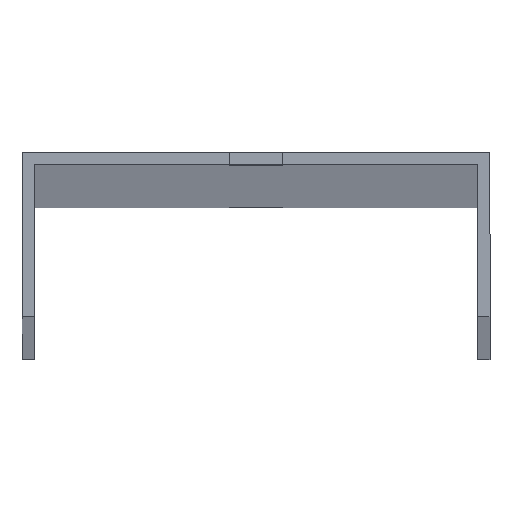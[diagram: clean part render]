
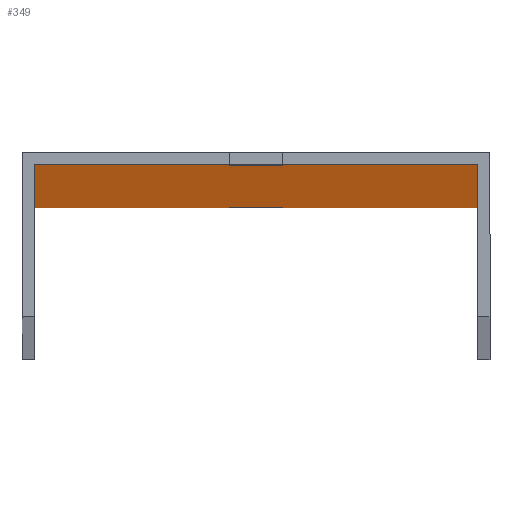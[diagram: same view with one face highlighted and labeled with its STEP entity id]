
A CAD part, top view. The second image highlights one B-rep face of the part: STEP entity #349.
In plain terms, the highlighted planar face has unit normal (0, -1, 0).
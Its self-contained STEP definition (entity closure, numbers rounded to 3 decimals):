
#1 = DIRECTION ( 'NONE',  ( -1., 0., 0. ) ) ;
#4 = EDGE_LOOP ( 'NONE', ( #143, #237, #365, #61 ) ) ;
#7 = EDGE_LOOP ( 'NONE', ( #327, #92, #99, #510 ) ) ;
#8 = VERTEX_POINT ( 'NONE', #461 ) ;
#12 = CARTESIAN_POINT ( 'NONE',  ( -28.5, -1.5, 1479. ) ) ;
#28 = VECTOR ( 'NONE', #229, 1000. ) ;
#38 = VERTEX_POINT ( 'NONE', #313 ) ;
#40 = EDGE_CURVE ( 'NONE', #508, #557, #586, .T. ) ;
#41 = CARTESIAN_POINT ( 'NONE',  ( 3.25, -1.5, 1500. ) ) ;
#42 = VERTEX_POINT ( 'NONE', #497 ) ;
#48 = FACE_OUTER_BOUND ( 'NONE', #4, .T. ) ;
#50 = VECTOR ( 'NONE', #145, 1000. ) ;
#52 = ORIENTED_EDGE ( 'NONE', *, *, #303, .T. ) ;
#61 = ORIENTED_EDGE ( 'NONE', *, *, #144, .T. ) ;
#72 = CARTESIAN_POINT ( 'NONE',  ( 27., -1.5, -1500. ) ) ;
#78 = ORIENTED_EDGE ( 'NONE', *, *, #326, .T. ) ;
#81 = EDGE_CURVE ( 'NONE', #42, #8, #551, .T. ) ;
#82 = LINE ( 'NONE', #434, #588 ) ;
#89 = LINE ( 'NONE', #454, #300 ) ;
#91 = CARTESIAN_POINT ( 'NONE',  ( -28.5, -1.5, 1500. ) ) ;
#92 = ORIENTED_EDGE ( 'NONE', *, *, #545, .F. ) ;
#99 = ORIENTED_EDGE ( 'NONE', *, *, #358, .F. ) ;
#103 = ORIENTED_EDGE ( 'NONE', *, *, #309, .T. ) ;
#118 = DIRECTION ( 'NONE',  ( 0., 0., -1. ) ) ;
#119 = VECTOR ( 'NONE', #379, 1000. ) ;
#127 = LINE ( 'NONE', #252, #471 ) ;
#132 = DIRECTION ( 'NONE',  ( 0., 0., -1. ) ) ;
#137 = LINE ( 'NONE', #266, #28 ) ;
#143 = ORIENTED_EDGE ( 'NONE', *, *, #244, .F. ) ;
#144 = EDGE_CURVE ( 'NONE', #239, #267, #166, .T. ) ;
#145 = DIRECTION ( 'NONE',  ( 0., 0., -1. ) ) ;
#166 = LINE ( 'NONE', #211, #419 ) ;
#174 = FACE_BOUND ( 'NONE', #7, .T. ) ;
#186 = DIRECTION ( 'NONE',  ( 1., 0., 0. ) ) ;
#187 = CARTESIAN_POINT ( 'NONE',  ( -3.25, -1.5, 1500. ) ) ;
#194 = VECTOR ( 'NONE', #216, 1000. ) ;
#204 = CARTESIAN_POINT ( 'NONE',  ( 3.25, -1.5, -1479. ) ) ;
#211 = CARTESIAN_POINT ( 'NONE',  ( -27., -1.5, 1500. ) ) ;
#214 = DIRECTION ( 'NONE',  ( 0., 0., -1. ) ) ;
#216 = DIRECTION ( 'NONE',  ( 0., 0., 1. ) ) ;
#221 = FACE_BOUND ( 'NONE', #388, .T. ) ;
#223 = VERTEX_POINT ( 'NONE', #204 ) ;
#229 = DIRECTION ( 'NONE',  ( -1., 0., 0. ) ) ;
#237 = ORIENTED_EDGE ( 'NONE', *, *, #40, .F. ) ;
#239 = VERTEX_POINT ( 'NONE', #356 ) ;
#244 = EDGE_CURVE ( 'NONE', #557, #267, #82, .T. ) ;
#250 = CARTESIAN_POINT ( 'NONE',  ( 3.25, -1.5, 1488. ) ) ;
#252 = CARTESIAN_POINT ( 'NONE',  ( -28.5, -1.5, 1488. ) ) ;
#253 = VERTEX_POINT ( 'NONE', #373 ) ;
#263 = EDGE_CURVE ( 'NONE', #253, #395, #137, .T. ) ;
#266 = CARTESIAN_POINT ( 'NONE',  ( -28.5, -1.5, -1488. ) ) ;
#267 = VERTEX_POINT ( 'NONE', #323 ) ;
#269 = DIRECTION ( 'NONE',  ( 0., -1., 0. ) ) ;
#296 = VERTEX_POINT ( 'NONE', #450 ) ;
#300 = VECTOR ( 'NONE', #581, 1000. ) ;
#303 = EDGE_CURVE ( 'NONE', #223, #253, #590, .T. ) ;
#309 = EDGE_CURVE ( 'NONE', #395, #38, #585, .T. ) ;
#311 = LINE ( 'NONE', #12, #440 ) ;
#313 = CARTESIAN_POINT ( 'NONE',  ( -3.25, -1.5, -1479. ) ) ;
#319 = PLANE ( 'NONE',  #383 ) ;
#323 = CARTESIAN_POINT ( 'NONE',  ( -27., -1.5, -1500. ) ) ;
#326 = EDGE_CURVE ( 'NONE', #38, #223, #89, .T. ) ;
#327 = ORIENTED_EDGE ( 'NONE', *, *, #81, .F. ) ;
#349 = ADVANCED_FACE ( 'NONE', ( #174, #48, #221 ), #319, .T. ) ;
#356 = CARTESIAN_POINT ( 'NONE',  ( -27., -1.5, 1500. ) ) ;
#358 = EDGE_CURVE ( 'NONE', #296, #464, #558, .T. ) ;
#360 = DIRECTION ( 'NONE',  ( -1., 0., 0. ) ) ;
#365 = ORIENTED_EDGE ( 'NONE', *, *, #404, .T. ) ;
#373 = CARTESIAN_POINT ( 'NONE',  ( 3.25, -1.5, -1488. ) ) ;
#374 = VECTOR ( 'NONE', #132, 1000. ) ;
#379 = DIRECTION ( 'NONE',  ( 0., 0., 1. ) ) ;
#383 = AXIS2_PLACEMENT_3D ( 'NONE', #91, #269, #458 ) ;
#386 = ORIENTED_EDGE ( 'NONE', *, *, #263, .T. ) ;
#388 = EDGE_LOOP ( 'NONE', ( #386, #103, #78, #52 ) ) ;
#395 = VERTEX_POINT ( 'NONE', #467 ) ;
#404 = EDGE_CURVE ( 'NONE', #508, #239, #473, .T. ) ;
#408 = CARTESIAN_POINT ( 'NONE',  ( -3.25, -1.5, 1500. ) ) ;
#419 = VECTOR ( 'NONE', #118, 1000. ) ;
#424 = CARTESIAN_POINT ( 'NONE',  ( -28.5, -1.5, 1500. ) ) ;
#426 = DIRECTION ( 'NONE',  ( -1., 0., 0. ) ) ;
#434 = CARTESIAN_POINT ( 'NONE',  ( -28.5, -1.5, -1500. ) ) ;
#440 = VECTOR ( 'NONE', #186, 1000. ) ;
#450 = CARTESIAN_POINT ( 'NONE',  ( 3.25, -1.5, 1479. ) ) ;
#451 = CARTESIAN_POINT ( 'NONE',  ( 27., -1.5, 1500. ) ) ;
#454 = CARTESIAN_POINT ( 'NONE',  ( -28.5, -1.5, -1479. ) ) ;
#458 = DIRECTION ( 'NONE',  ( 0., 0., -1. ) ) ;
#461 = CARTESIAN_POINT ( 'NONE',  ( -3.25, -1.5, 1479. ) ) ;
#464 = VERTEX_POINT ( 'NONE', #250 ) ;
#467 = CARTESIAN_POINT ( 'NONE',  ( -3.25, -1.5, -1488. ) ) ;
#471 = VECTOR ( 'NONE', #360, 1000. ) ;
#473 = LINE ( 'NONE', #424, #578 ) ;
#479 = VECTOR ( 'NONE', #214, 1000. ) ;
#497 = CARTESIAN_POINT ( 'NONE',  ( -3.25, -1.5, 1488. ) ) ;
#508 = VERTEX_POINT ( 'NONE', #451 ) ;
#510 = ORIENTED_EDGE ( 'NONE', *, *, #575, .F. ) ;
#541 = CARTESIAN_POINT ( 'NONE',  ( 27., -1.5, 1500. ) ) ;
#545 = EDGE_CURVE ( 'NONE', #464, #42, #127, .T. ) ;
#551 = LINE ( 'NONE', #187, #50 ) ;
#557 = VERTEX_POINT ( 'NONE', #72 ) ;
#558 = LINE ( 'NONE', #561, #119 ) ;
#561 = CARTESIAN_POINT ( 'NONE',  ( 3.25, -1.5, 1500. ) ) ;
#575 = EDGE_CURVE ( 'NONE', #8, #296, #311, .T. ) ;
#578 = VECTOR ( 'NONE', #426, 1000. ) ;
#581 = DIRECTION ( 'NONE',  ( 1., 0., 0. ) ) ;
#585 = LINE ( 'NONE', #408, #194 ) ;
#586 = LINE ( 'NONE', #541, #374 ) ;
#588 = VECTOR ( 'NONE', #1, 1000. ) ;
#590 = LINE ( 'NONE', #41, #479 ) ;
